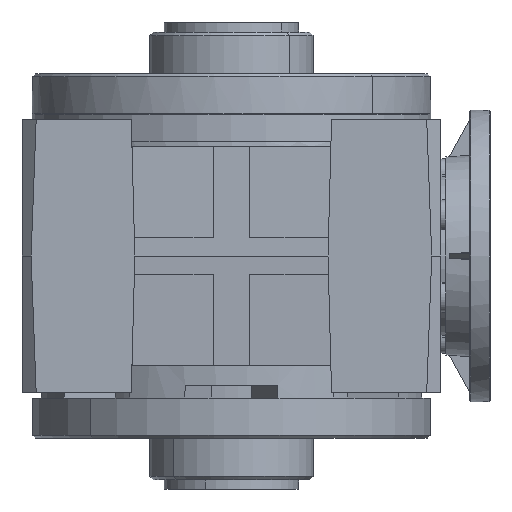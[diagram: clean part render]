
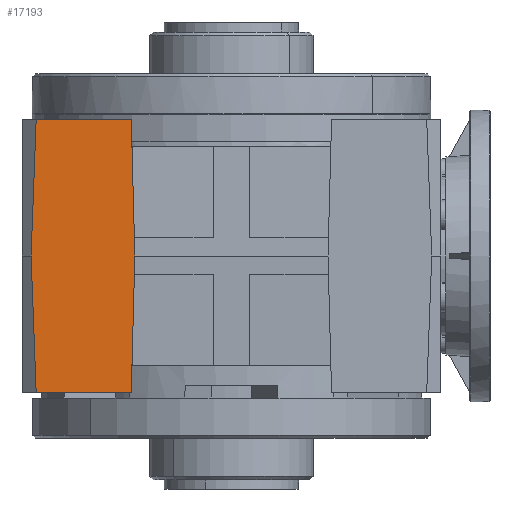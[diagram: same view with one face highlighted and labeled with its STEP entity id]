
A CAD part, front view. The second image highlights one B-rep face of the part: STEP entity #17193.
In plain terms, the highlighted planar face has unit normal (0, -1, 0).
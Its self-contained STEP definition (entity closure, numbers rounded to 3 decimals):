
#599 = DIRECTION ( 'NONE',  ( -0.037, 0., -0.999 ) ) ;
#744 = CARTESIAN_POINT ( 'NONE',  ( -115., -165., -75. ) ) ;
#2075 = AXIS2_PLACEMENT_3D ( 'NONE', #26977, #19633, #23171 ) ;
#2809 = LINE ( 'NONE', #25064, #4403 ) ;
#2868 = ORIENTED_EDGE ( 'NONE', *, *, #36846, .F. ) ;
#3807 = ORIENTED_EDGE ( 'NONE', *, *, #42864, .T. ) ;
#4159 = DIRECTION ( 'NONE',  ( 0.026, 0., -1. ) ) ;
#4306 = VECTOR ( 'NONE', #4159, 1000. ) ;
#4403 = VECTOR ( 'NONE', #17968, 1000. ) ;
#5630 = CARTESIAN_POINT ( 'NONE',  ( -107.233, -165., -74.712 ) ) ;
#9462 = VERTEX_POINT ( 'NONE', #14160 ) ;
#10152 = ORIENTED_EDGE ( 'NONE', *, *, #13406, .F. ) ;
#10988 = LINE ( 'NONE', #45907, #4306 ) ;
#11633 = VERTEX_POINT ( 'NONE', #44298 ) ;
#11936 = CARTESIAN_POINT ( 'NONE',  ( -110., -165., 0. ) ) ;
#13406 = EDGE_CURVE ( 'NONE', #40543, #9462, #20484, .T. ) ;
#14160 = CARTESIAN_POINT ( 'NONE',  ( -55., -165., 75. ) ) ;
#15328 = FACE_OUTER_BOUND ( 'NONE', #28490, .T. ) ;
#16164 = DIRECTION ( 'NONE',  ( 1., 0., 0. ) ) ;
#16214 = ORIENTED_EDGE ( 'NONE', *, *, #39383, .T. ) ;
#16281 = CARTESIAN_POINT ( 'NONE',  ( -53.036, -165., 0. ) ) ;
#16680 = CARTESIAN_POINT ( 'NONE',  ( -115., -165., 75. ) ) ;
#17193 = ADVANCED_FACE ( 'NONE', ( #15328 ), #46469, .T. ) ;
#17412 = ORIENTED_EDGE ( 'NONE', *, *, #28186, .F. ) ;
#17968 = DIRECTION ( 'NONE',  ( -0.026, 0., -1. ) ) ;
#19633 = DIRECTION ( 'NONE',  ( 0., -1., 0. ) ) ;
#20484 = LINE ( 'NONE', #16680, #21152 ) ;
#21152 = VECTOR ( 'NONE', #31863, 1000. ) ;
#23171 = DIRECTION ( 'NONE',  ( 0., 0., -1. ) ) ;
#24015 = LINE ( 'NONE', #744, #38844 ) ;
#25064 = CARTESIAN_POINT ( 'NONE',  ( -55., -165., -75. ) ) ;
#25291 = EDGE_CURVE ( 'NONE', #9462, #25469, #10988, .T. ) ;
#25365 = DIRECTION ( 'NONE',  ( -0.037, 0., 0.999 ) ) ;
#25469 = VERTEX_POINT ( 'NONE', #16281 ) ;
#26977 = CARTESIAN_POINT ( 'NONE',  ( -115., -165., -75. ) ) ;
#28186 = EDGE_CURVE ( 'NONE', #25469, #28245, #2809, .T. ) ;
#28245 = VERTEX_POINT ( 'NONE', #36959 ) ;
#28490 = EDGE_LOOP ( 'NONE', ( #2868, #16214, #17412, #48643, #10152, #3807 ) ) ;
#28572 = CARTESIAN_POINT ( 'NONE',  ( -107.223, -165., 75. ) ) ;
#31453 = LINE ( 'NONE', #5630, #40354 ) ;
#31863 = DIRECTION ( 'NONE',  ( 1., 0., 0. ) ) ;
#32814 = LINE ( 'NONE', #44460, #34718 ) ;
#34718 = VECTOR ( 'NONE', #599, 1000. ) ;
#34908 = VERTEX_POINT ( 'NONE', #11936 ) ;
#36846 = EDGE_CURVE ( 'NONE', #11633, #34908, #31453, .T. ) ;
#36959 = CARTESIAN_POINT ( 'NONE',  ( -55., -165., -75. ) ) ;
#38844 = VECTOR ( 'NONE', #16164, 1000. ) ;
#39383 = EDGE_CURVE ( 'NONE', #11633, #28245, #24015, .T. ) ;
#40354 = VECTOR ( 'NONE', #25365, 1000. ) ;
#40543 = VERTEX_POINT ( 'NONE', #28572 ) ;
#42864 = EDGE_CURVE ( 'NONE', #40543, #34908, #32814, .T. ) ;
#44298 = CARTESIAN_POINT ( 'NONE',  ( -107.223, -165., -75. ) ) ;
#44460 = CARTESIAN_POINT ( 'NONE',  ( -112.78, -165., -75.082 ) ) ;
#45907 = CARTESIAN_POINT ( 'NONE',  ( -55., -165., 75. ) ) ;
#46469 = PLANE ( 'NONE',  #2075 ) ;
#48643 = ORIENTED_EDGE ( 'NONE', *, *, #25291, .F. ) ;
